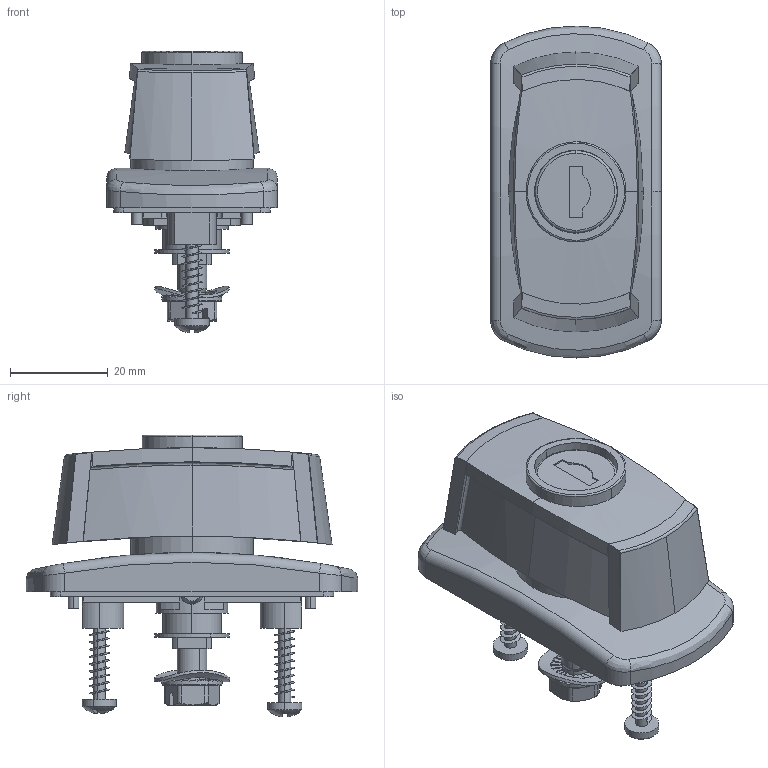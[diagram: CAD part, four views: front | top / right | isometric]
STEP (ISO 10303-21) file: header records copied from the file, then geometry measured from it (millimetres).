
FILE_DESCRIPTION (( 'STEP AP214' ), '1' );
FILE_NAME ('RW200-M.STEP', '2016-09-07T12:58:41', ( '' ), ( '' ), 'SwSTEP 2.0', 'SolidWorks 2015', '' );
FILE_SCHEMA (( 'AUTOMOTIVE_DESIGN' ));
Length unit declared in the file: millimetre
Products named in the file (15): DIN 6921_M6x14; O-ring 14x1,78_A; DIN 915_M3 x 5; 2.PM18.001.03_A; 2.B.002_R.1333; Wkrêt 4,2 x 22_K.02; RW200-M; 1B.RW200.01_A; 1B.RW200.00.02_A; 1B.RW200.00.01_A; 1B.RW200.02.02.00_A; 1B.RW200.00.03_A; 1.RW200IP.001_A; Podk³adka teflonowa; Podk³adka ³ukowa M22_A
Assembly tree (15 placements, depth 3):
  RW200-M
    1B.RW200.01_A
      1B.RW200.00.01_A
      1B.RW200.02.02.00_A
    1B.RW200.00.02_A
    1B.RW200.00.03_A
    1.RW200IP.001_A
    2.PM18.001.03_A
    2.B.002_R.1333
    O-ring 14x1,78_A
    DIN 915_M3 x 5
    Podk³adka teflonowa
    Podk³adka ³ukowa M22_A
    DIN 6921_M6x14
    Wkrêt 4,2 x 22_K.02  x2
Bounding box: 35 x 68 x 57.74 mm (x, y, z)
Volume: 43414.8 mm3; surface area: 28307.5 mm2
Topology: 16 solids, 16 shells, 663 faces, 1709 edges, 1080 vertices
Faces by surface type: plane 350, cylinder 210, bspline 54, cone 27, torus 18, sphere 4
Entity records: 28723 total; most frequent: CARTESIAN_POINT 13685, ORIENTED_EDGE 3196, DIRECTION 2780, EDGE_CURVE 1598, VERTEX_POINT 1020, AXIS2_PLACEMENT_3D 997, LINE 786, VECTOR 786
